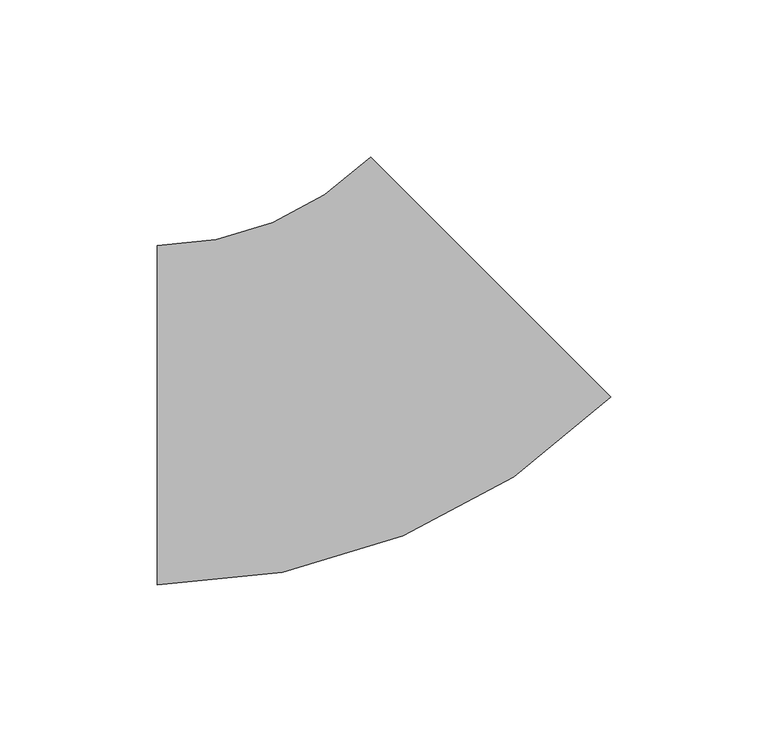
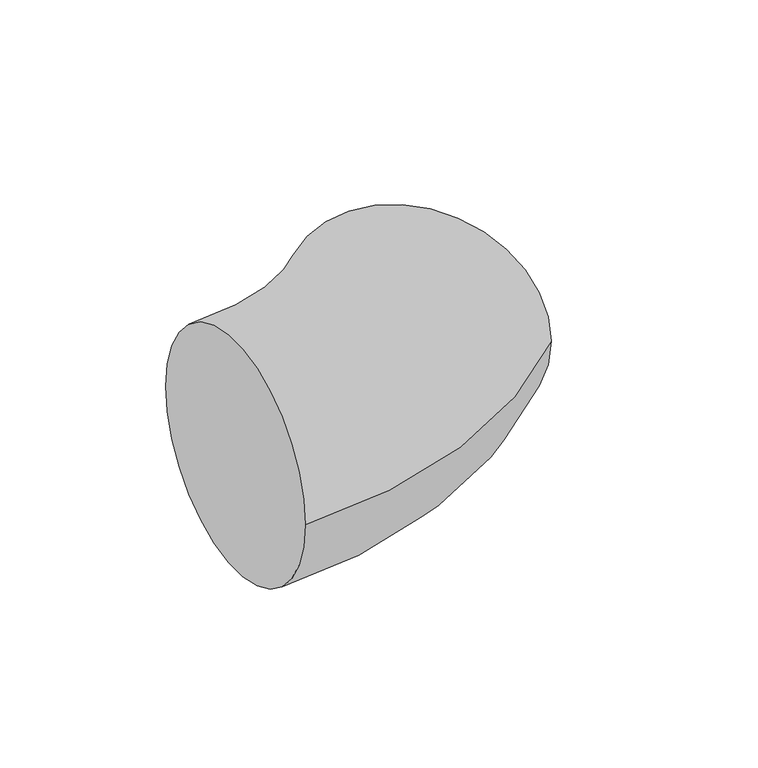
"""IFC4 building model written with IfcOpenShell, lengths in millimetres: pipe fitting geometry, ADSK_ДетальСтальнаяСварная_Отвод_ГОСТ17375-2001 : Исполнение 2."""

from ifc_helpers import new_model, si_unit, point, frame, origin, place, context, project, spatial, circle_curve, ellipse_curve, trimmed, source, transform, mapped, element, save
from ifc_brep_helpers import plane_surface, revolved_surface, advanced_brep


def pipe_fitting_017babde(model_context):
    return source(origin(), model_context, "Body", "AdvancedBrep", [
        advanced_brep(
        [(-62.1320344, -54.0, 0.0), (-62.1320344, 54.0, 0.0), (82.117749, 5.7502166, 0.0), (5.7502166, 82.117749, 0.0)],
        [
            (0, 1, circle_curve(frame((-62.1320344, 0.0, 0.0), z_axis=(-1.0, 0.0, 0.0), x_axis=(0.0, 1.0, 0.0)), 54.0)),
            (1, 0, circle_curve(frame((-62.1320344, 0.0, 0.0), z_axis=(-1.0, 0.0, 0.0), x_axis=(0.0, 1.0, 0.0)), 54.0)),
            (2, 3, circle_curve(frame((43.9339828, 43.9339828, 0.0), z_axis=(0.707106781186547, 0.707106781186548, 0.0), x_axis=(-0.707106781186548, 0.707106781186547, 0.0)), 54.0)),
            (3, 2, circle_curve(frame((43.9339828, 43.9339828, 0.0), z_axis=(0.707106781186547, 0.707106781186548, 0.0), x_axis=(-0.707106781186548, 0.707106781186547, 0.0)), 54.0)),
            (3, 1, circle_curve(frame((-62.1320344, 150.0, 0.0), z_axis=(0.0, 0.0, -1.0), x_axis=(0.0, -1.0, 0.0)), 96.0)),
            (0, 2, circle_curve(frame((-62.1320344, 150.0, 0.0), z_axis=(0.0, 0.0, 1.0), x_axis=(0.0, -1.0, 0.0)), 204.0)),
        ],
        [
            plane_surface(frame((-62.1320344, 0.0, 0.0), z_axis=(-1.0, 0.0, 0.0), x_axis=(0.0, 0.0, 1.0))),
            plane_surface(frame((43.9339828, 43.9339828, 0.0), z_axis=(0.7071067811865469, 0.7071067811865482, 0.0), x_axis=(0.0, 0.0, 1.0))),
            revolved_surface(trimmed(ellipse_curve(frame((-62.1320344, 0.0, 0.0), z_axis=(-1.0, 0.0, 0.0), x_axis=(0.0, 1.0, 0.0)), 54.0, 54.0), [point((-62.1320344, -54.0, 0.0))], [point((-62.1320344, 54.0, 0.0))], True, "CARTESIAN"), (-62.1320344, 150.0, 0.0), (0.0, 0.0, 1.0)),
            revolved_surface(trimmed(ellipse_curve(frame((-62.1320344, 0.0, 0.0), z_axis=(-1.0, 0.0, 0.0), x_axis=(0.0, 1.0, 0.0)), 54.0, 54.0), [point((-62.1320344, 54.0, 0.0))], [point((-62.1320344, -54.0, 0.0))], True, "CARTESIAN"), (-62.1320344, 150.0, 0.0), (0.0, 0.0, 1.0)),
        ],
        [
            (0, [[1, 2]]),
            (1, [[3, 4]]),
            (2, [[5, -1, 6, -4]]),
            (3, [[-6, -2, -5, -3]]),
        ],
    ),
    ])


if __name__ == "__main__":
    model = new_model("IFC4")
    model_context = context("Model", 3, world=origin())
    ifc_project = project(units=[si_unit("LENGTHUNIT", "METRE", prefix="MILLI")], contexts=[model_context])
    site = spatial("IfcSite", under=ifc_project)
    building = spatial("IfcBuilding", under=site)
    placement = place(None, origin())
    pipe_fitting_shape = pipe_fitting_017babde(model_context)
    element("IfcPipeFitting", 1, ObjectType="ADSK_ДетальСтальнаяСварная_Отвод_ГОСТ17375-2001 : Исполнение 2", at=placement, inside=building, context=model_context, shape_type="MappedRepresentation", body=[
        mapped(pipe_fitting_shape, transform((0.0, 0.0, 0.0), x_axis=(1.0, 0.0, 0.0), y_axis=(0.0, 1.0, 0.0), z_axis=(0.0, 0.0, 1.0))),
    ])
    save(model, "model.ifc")
